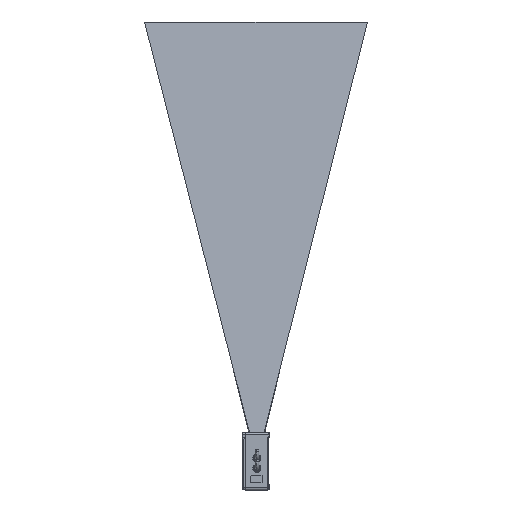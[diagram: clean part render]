
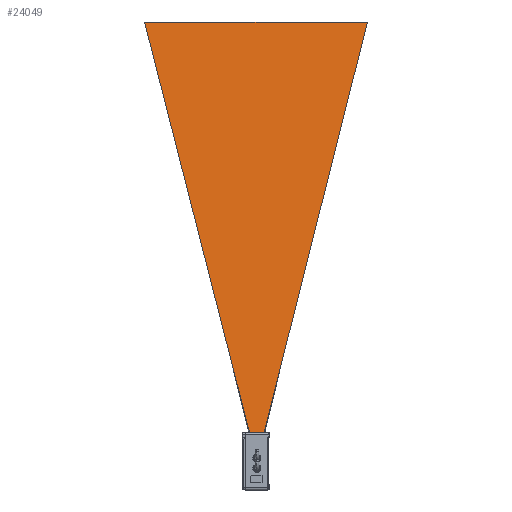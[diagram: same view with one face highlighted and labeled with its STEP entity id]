
A CAD part, left-side view. The second image highlights one B-rep face of the part: STEP entity #24049.
In plain terms, the highlighted planar face has unit normal (-0.994, 0, 0.114).
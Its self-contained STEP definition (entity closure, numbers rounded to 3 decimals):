
#23899=DIRECTION('',(0.111,0.246,0.963));
#23900=VECTOR('',#23899,938.607);
#23901=CARTESIAN_POINT('',(74.375,257.05,
-903.806));
#23902=LINE('',#23901,#23900);
#23903=DIRECTION('',(0.,-1.,0.));
#23904=VECTOR('',#23903,488.);
#23905=CARTESIAN_POINT('',(178.2,488.,0.));
#23906=LINE('',#23905,#23904);
#23907=DIRECTION('',(-0.111,0.243,-0.964));
#23908=VECTOR('',#23907,937.752);
#23909=CARTESIAN_POINT('',(178.2,0.,0.));
#23910=LINE('',#23909,#23908);
#23911=DIRECTION('',(0.,1.,0.));
#23912=VECTOR('',#23911,29.6);
#23913=CARTESIAN_POINT('',(74.375,227.45,
-903.806));
#23914=LINE('',#23913,#23912);
#23915=CARTESIAN_POINT('',(74.375,257.05,
-903.806));
#23917=VERTEX_POINT('',#23915);
#23921=CARTESIAN_POINT('',(74.375,227.45,
-903.806));
#23922=VERTEX_POINT('',#23921);
#23923=CARTESIAN_POINT('',(178.2,488.,0.));
#23925=VERTEX_POINT('',#23923);
#23929=CARTESIAN_POINT('',(178.2,0.,0.));
#23930=VERTEX_POINT('',#23929);
#24037=CARTESIAN_POINT('',(126.288,244.,-451.903));
#24038=DIRECTION('',(0.993,0.,-0.114));
#24039=DIRECTION('',(0.,-1.,0.));
#24040=AXIS2_PLACEMENT_3D('',#24037,#24038,#24039);
#24041=PLANE('',#24040);
#24042=ORIENTED_EDGE('',*,*,#23982,.T.);
#24043=ORIENTED_EDGE('',*,*,#23942,.T.);
#24044=ORIENTED_EDGE('',*,*,#24028,.T.);
#24046=ORIENTED_EDGE('',*,*,#24045,.T.);
#24047=EDGE_LOOP('',(#24042,#24043,#24044,#24046));
#24048=FACE_OUTER_BOUND('',#24047,.F.);
#23942=EDGE_CURVE('',#23925,#23930,#23906,.T.);
#23982=EDGE_CURVE('',#23917,#23925,#23902,.T.);
#24028=EDGE_CURVE('',#23930,#23922,#23910,.T.);
#24045=EDGE_CURVE('',#23922,#23917,#23914,.T.);
#24049=ADVANCED_FACE('',(#24048),#24041,.F.);
